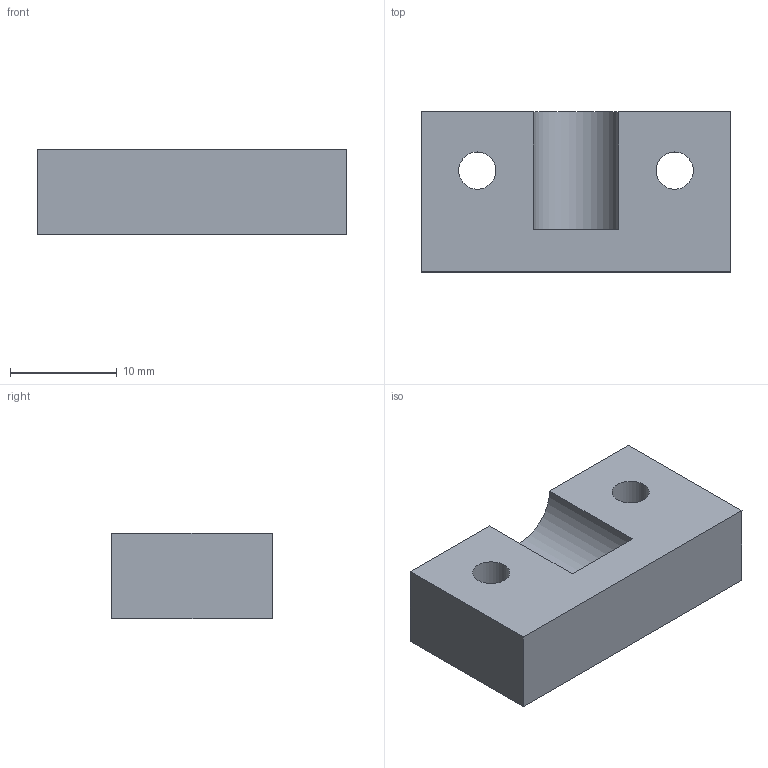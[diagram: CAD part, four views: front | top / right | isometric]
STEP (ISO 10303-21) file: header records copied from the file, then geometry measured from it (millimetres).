
FILE_DESCRIPTION(/* description */ (''),/* implementation_level */ '2;1');
FILE_NAME(/* name */ 'Stepper Mount BR Clamp x1 v1.step',/* time_stamp */ '2023-03-23T06:44:30-06:00',/* author */ (''),/* organization */ (''),/* preprocessor_version */ 'ST-DEVELOPER v19.2',/* originating_system */ 'Autodesk Translation Framework v11.17.0.187',/* authorisation */ '');
FILE_SCHEMA (('AUTOMOTIVE_DESIGN { 1 0 10303 214 3 1 1 }'));
Length unit declared in the file: millimetre
Products named in the file (2): Stepper Mount BR Clamp x1; BL Cap
Assembly tree (1 placements, depth 2):
  Stepper Mount BR Clamp x1
    BL Cap
Bounding box: 29 x 15 x 8 mm (x, y, z)
Volume: 3049.6 mm3; surface area: 1761.7 mm2
Topology: 1 solids, 1 shells, 10 faces, 24 edges, 16 vertices
Faces by surface type: plane 7, cylinder 3
Full cylindrical faces by diameter (mm): 3.5 x2
Entity records: 362 total; most frequent: DIRECTION 56, CARTESIAN_POINT 53, ORIENTED_EDGE 48, EDGE_CURVE 24, AXIS2_PLACEMENT_3D 19, LINE 18, VECTOR 18, VERTEX_POINT 16
